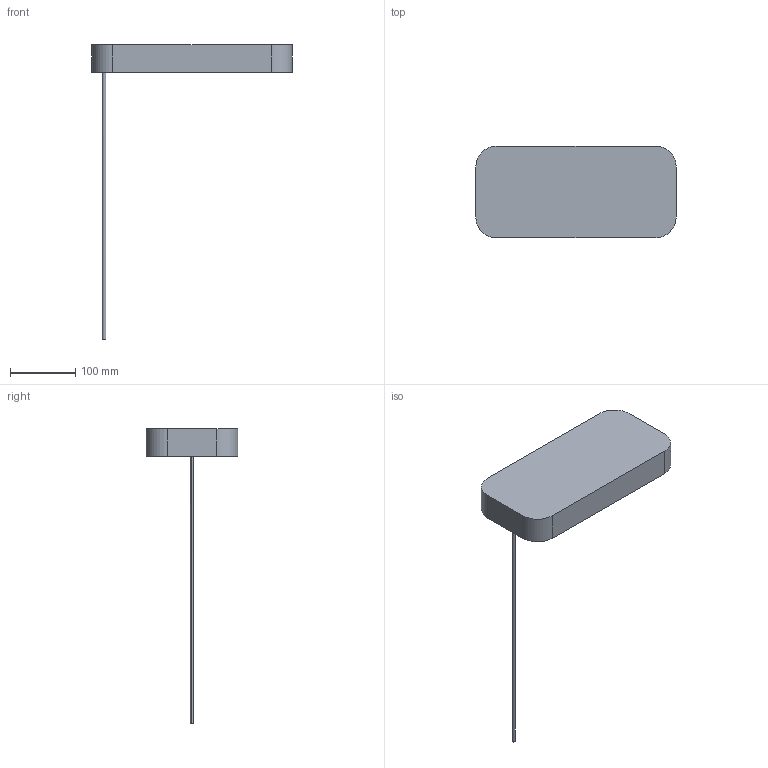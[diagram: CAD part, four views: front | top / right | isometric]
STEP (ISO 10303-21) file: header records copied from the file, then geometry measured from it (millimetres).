
FILE_DESCRIPTION(/* description */ (''),/* implementation_level */ '2;1');
FILE_NAME(/* name */ 'AoL-System-Suspension-Power-Supply',/* time_stamp */ '2019-09-25T18:12:18+02:00',/* author */ (''),/* organization */ (''),/* preprocessor_version */ 'ST-DEVELOPER v15',/* originating_system */ '',/* authorisation */ '');
FILE_SCHEMA (('AUTOMOTIVE_DESIGN'));
Length unit declared in the file: millimetre
Products named in the file (1): Document
Bounding box: 306.39 x 140.37 x 450.7 mm (x, y, z)
Volume: 1799049.4 mm3; surface area: 127371.6 mm2
Topology: 2 solids, 2 shells, 19 faces, 40 edges, 26 vertices
Faces by surface type: bspline 14, plane 5
Entity records: 573 total; most frequent: CARTESIAN_POINT 307, ORIENTED_EDGE 80, EDGE_CURVE 40, VERTEX_POINT 26, EDGE_LOOP 20, ADVANCED_FACE 19, FACE_OUTER_BOUND 19, DIRECTION 9
